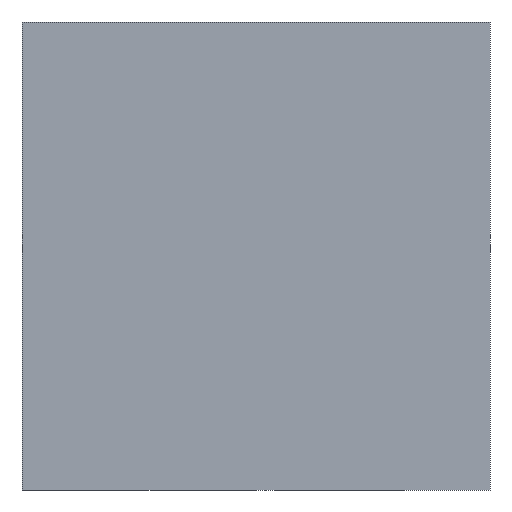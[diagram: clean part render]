
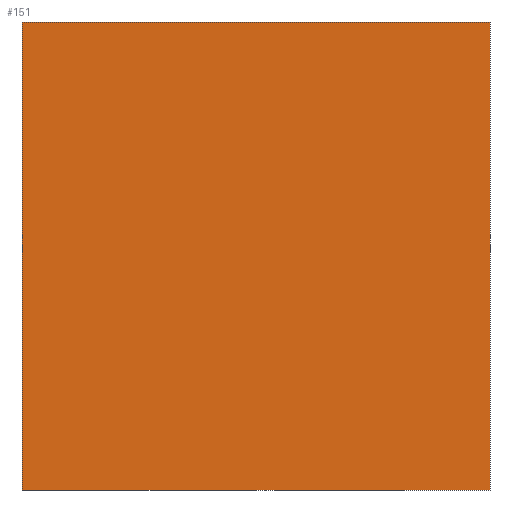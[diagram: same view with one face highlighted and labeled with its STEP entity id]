
A CAD part, left-side view. The second image highlights one B-rep face of the part: STEP entity #151.
In plain terms, the highlighted planar face has unit normal (-1, 0, 0).
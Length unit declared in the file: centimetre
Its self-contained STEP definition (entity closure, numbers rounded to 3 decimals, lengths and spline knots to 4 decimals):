
#23 = DIRECTION ( 'NONE',  ( 1., 0., 0. ) ) ;
#32 = DIRECTION ( 'NONE',  ( 0., -1., 0. ) ) ;
#47 = VERTEX_POINT ( 'NONE', #54 ) ;
#54 = CARTESIAN_POINT ( 'NONE',  ( 0., 0., 1000. ) ) ;
#70 = CARTESIAN_POINT ( 'NONE',  ( 0., 1000., 1000. ) ) ;
#79 = CARTESIAN_POINT ( 'NONE',  ( 0., 0., 1000. ) ) ;
#87 = ORIENTED_EDGE ( 'NONE', *, *, #478, .F. ) ;
#100 = VECTOR ( 'NONE', #178, 100. ) ;
#116 = DIRECTION ( 'NONE',  ( 0., 0., -1. ) ) ;
#143 = FACE_OUTER_BOUND ( 'NONE', #506, .T. ) ;
#151 = ADVANCED_FACE ( 'NONE', ( #143 ), #568, .F. ) ;
#163 = LINE ( 'NONE', #70, #513 ) ;
#167 = VECTOR ( 'NONE', #32, 100. ) ;
#178 = DIRECTION ( 'NONE',  ( 0., 0., -1. ) ) ;
#182 = LINE ( 'NONE', #79, #100 ) ;
#226 = CARTESIAN_POINT ( 'NONE',  ( 0., 1000., 1000. ) ) ;
#229 = ORIENTED_EDGE ( 'NONE', *, *, #366, .T. ) ;
#247 = DIRECTION ( 'NONE',  ( 0., 0., -1. ) ) ;
#268 = LINE ( 'NONE', #226, #167 ) ;
#286 = VECTOR ( 'NONE', #579, 100. ) ;
#300 = CARTESIAN_POINT ( 'NONE',  ( 0., 0., 0. ) ) ;
#305 = EDGE_CURVE ( 'NONE', #596, #328, #357, .T. ) ;
#309 = CARTESIAN_POINT ( 'NONE',  ( 0., 1000., 1000. ) ) ;
#328 = VERTEX_POINT ( 'NONE', #300 ) ;
#336 = ORIENTED_EDGE ( 'NONE', *, *, #414, .F. ) ;
#341 = VERTEX_POINT ( 'NONE', #309 ) ;
#357 = LINE ( 'NONE', #543, #286 ) ;
#366 = EDGE_CURVE ( 'NONE', #341, #596, #163, .T. ) ;
#386 = AXIS2_PLACEMENT_3D ( 'NONE', #486, #23, #247 ) ;
#414 = EDGE_CURVE ( 'NONE', #341, #47, #268, .T. ) ;
#431 = ORIENTED_EDGE ( 'NONE', *, *, #305, .T. ) ;
#478 = EDGE_CURVE ( 'NONE', #47, #328, #182, .T. ) ;
#486 = CARTESIAN_POINT ( 'NONE',  ( 0., 1000., 1000. ) ) ;
#498 = CARTESIAN_POINT ( 'NONE',  ( 0., 1000., 0. ) ) ;
#506 = EDGE_LOOP ( 'NONE', ( #431, #87, #336, #229 ) ) ;
#513 = VECTOR ( 'NONE', #116, 100. ) ;
#543 = CARTESIAN_POINT ( 'NONE',  ( 0., 1000., 0. ) ) ;
#568 = PLANE ( 'NONE',  #386 ) ;
#579 = DIRECTION ( 'NONE',  ( 0., -1., 0. ) ) ;
#596 = VERTEX_POINT ( 'NONE', #498 ) ;
